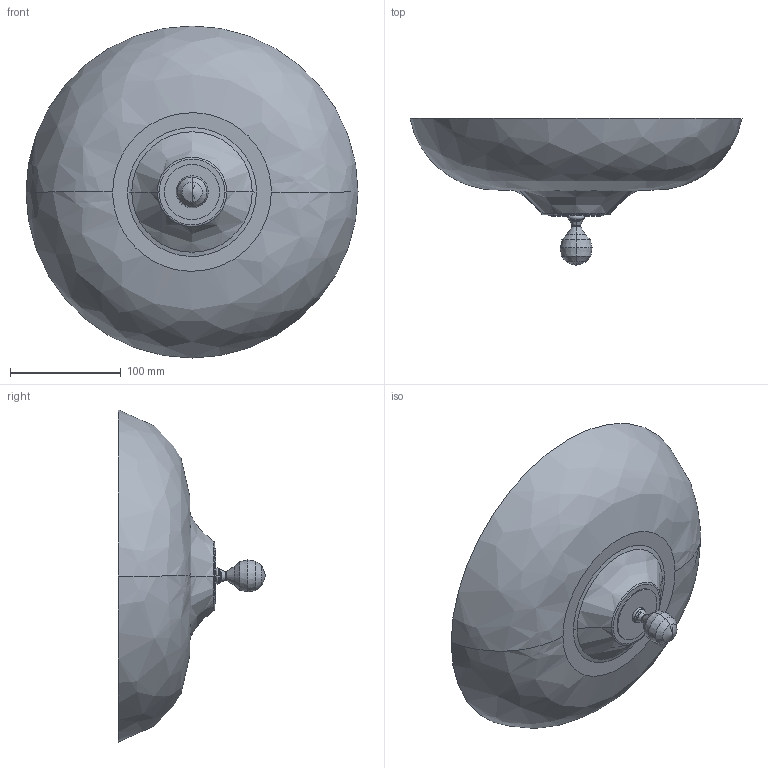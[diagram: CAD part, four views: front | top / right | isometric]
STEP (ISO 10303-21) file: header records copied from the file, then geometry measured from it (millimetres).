
FILE_DESCRIPTION (( 'STEP AP203' ), '1' );
FILE_NAME ('PASCALE_PL30_STEP.STEP', '2016-02-11T13:12:32', ( 'admin' ), ( '' ), 'SwSTEP 2.0', 'SolidWorks 2015', '' );
FILE_SCHEMA (( 'CONFIG_CONTROL_DESIGN' ));
Length unit declared in the file: millimetre
Products named in the file (2): PASCALE_PL30_STEP
Bounding box: 300 x 132.92 x 300 mm (x, y, z)
Volume: 889213.3 mm3; surface area: 203227.8 mm2
Topology: 2 solids, 3 shells, 57 faces, 120 edges, 70 vertices
Faces by surface type: bspline 24, cone 16, plane 9, cylinder 8
Entity records: 3127 total; most frequent: CARTESIAN_POINT 1920, ORIENTED_EDGE 232, DIRECTION 208, EDGE_CURVE 116, AXIS2_PLACEMENT_3D 92, VERTEX_POINT 70, EDGE_LOOP 64, FACE_OUTER_BOUND 57
